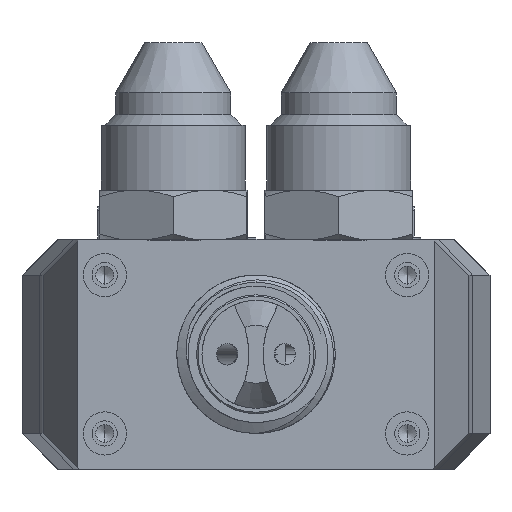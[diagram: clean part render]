
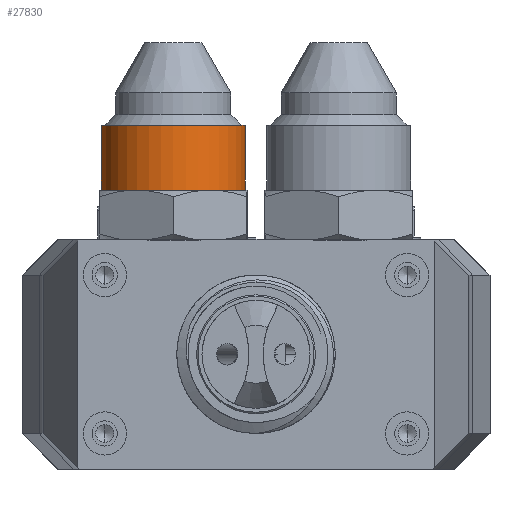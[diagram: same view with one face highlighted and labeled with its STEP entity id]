
A CAD part, front view. The second image highlights one B-rep face of the part: STEP entity #27830.
In plain terms, the highlighted cylindrical face has radius 10 mm (diameter 20 mm), a partial arc.
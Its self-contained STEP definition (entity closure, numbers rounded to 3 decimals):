
#102 = VECTOR ( 'NONE', #32925, 1000. ) ;
#299 = EDGE_CURVE ( 'NONE', #43402, #27942, #36799, .T. ) ;
#479 = CARTESIAN_POINT ( 'NONE',  ( -58.019, -126.235, 1030.303 ) ) ;
#572 = CYLINDRICAL_SURFACE ( 'NONE', #12910, 10. ) ;
#1945 = DIRECTION ( 'NONE',  ( 0., 0., 1. ) ) ;
#5195 = CARTESIAN_POINT ( 'NONE',  ( -48.019, -126.235, 1021.303 ) ) ;
#7170 = VERTEX_POINT ( 'NONE', #5195 ) ;
#10607 = CARTESIAN_POINT ( 'NONE',  ( -68.019, -126.235, 1052.575 ) ) ;
#10717 = CARTESIAN_POINT ( 'NONE',  ( -48.019, -126.235, 1030.303 ) ) ;
#11187 = DIRECTION ( 'NONE',  ( 1., 0., 0. ) ) ;
#12910 = AXIS2_PLACEMENT_3D ( 'NONE', #46083, #54988, #41887 ) ;
#13092 = CIRCLE ( 'NONE', #38709, 10. ) ;
#13589 = DIRECTION ( 'NONE',  ( 0., 0., -1. ) ) ;
#14981 = AXIS2_PLACEMENT_3D ( 'NONE', #21007, #1945, #11187 ) ;
#18362 = DIRECTION ( 'NONE',  ( 1., 0., 0. ) ) ;
#21007 = CARTESIAN_POINT ( 'NONE',  ( -58.019, -126.235, 1021.303 ) ) ;
#21222 = CARTESIAN_POINT ( 'NONE',  ( -48.019, -126.235, 1052.575 ) ) ;
#21561 = VERTEX_POINT ( 'NONE', #10717 ) ;
#23196 = FACE_OUTER_BOUND ( 'NONE', #42056, .T. ) ;
#27830 = ADVANCED_FACE ( 'NONE', ( #23196 ), #572, .T. ) ;
#27942 = VERTEX_POINT ( 'NONE', #47538 ) ;
#31819 = ORIENTED_EDGE ( 'NONE', *, *, #40410, .T. ) ;
#32755 = ORIENTED_EDGE ( 'NONE', *, *, #53648, .T. ) ;
#32925 = DIRECTION ( 'NONE',  ( 0., 0., 1. ) ) ;
#34013 = LINE ( 'NONE', #21222, #41623 ) ;
#36799 = LINE ( 'NONE', #10607, #102 ) ;
#38695 = CIRCLE ( 'NONE', #14981, 10. ) ;
#38709 = AXIS2_PLACEMENT_3D ( 'NONE', #479, #13589, #18362 ) ;
#40410 = EDGE_CURVE ( 'NONE', #21561, #27942, #13092, .T. ) ;
#41623 = VECTOR ( 'NONE', #43799, 1000. ) ;
#41887 = DIRECTION ( 'NONE',  ( 1., 0., 0. ) ) ;
#42056 = EDGE_LOOP ( 'NONE', ( #45499, #32755, #49688, #31819 ) ) ;
#43402 = VERTEX_POINT ( 'NONE', #47947 ) ;
#43799 = DIRECTION ( 'NONE',  ( 0., 0., 1. ) ) ;
#45499 = ORIENTED_EDGE ( 'NONE', *, *, #299, .F. ) ;
#46083 = CARTESIAN_POINT ( 'NONE',  ( -58.019, -126.235, 1052.575 ) ) ;
#47538 = CARTESIAN_POINT ( 'NONE',  ( -68.019, -126.235, 1030.303 ) ) ;
#47947 = CARTESIAN_POINT ( 'NONE',  ( -68.019, -126.235, 1021.303 ) ) ;
#49688 = ORIENTED_EDGE ( 'NONE', *, *, #53997, .T. ) ;
#53648 = EDGE_CURVE ( 'NONE', #43402, #7170, #38695, .T. ) ;
#53997 = EDGE_CURVE ( 'NONE', #7170, #21561, #34013, .T. ) ;
#54988 = DIRECTION ( 'NONE',  ( 0., 0., 1. ) ) ;
